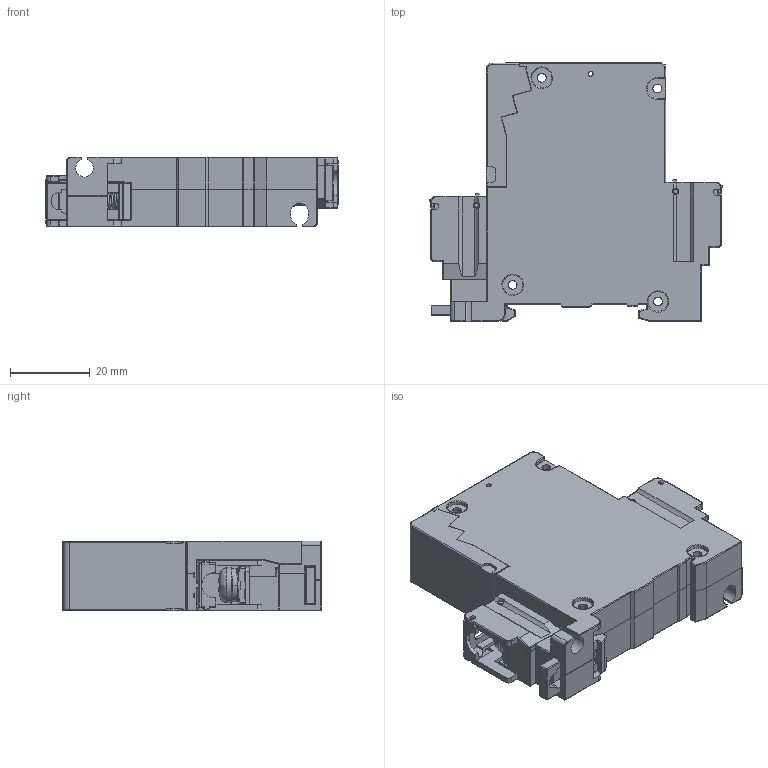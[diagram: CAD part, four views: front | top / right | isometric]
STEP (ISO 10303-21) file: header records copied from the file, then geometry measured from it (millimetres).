
FILE_DESCRIPTION (( 'STEP AP203' ), '1' );
FILE_NAME ('Total Ass''y(1P).STEP', '2018-06-27T00:26:19', ( '' ), ( '' ), 'SwSTEP 2.0', 'SolidWorks 2015', '' );
FILE_SCHEMA (( 'CONFIG_CONTROL_DESIGN' ));
Length unit declared in the file: millimetre
Products named in the file (19): Terminal Cover(1P)(CP30DN 6010); Self Up Screw(M5)(CP30DN 7305); Line Terminal Ass''''y(CP30DN4001); Din Rail Ass''''y(CP30DN 4005); Aux Handle(1P)(CP30DN6007); PH Swrew(M5X10); Base(CP30DN6001); Total Ass''y(1P); Wave Washer(M5); Dust Cover(CP30DN6014); Fixed Contact Tip(CP30DN7202)_晦獄 撲薑; Load Terminal(CP30DN5005); Cover(CP30DN6002); Line Terminal(CP30DN5004); 餌陝 Washer(M5); Din Rail Spring(CP30DN8001); Handle(CP30DN6004); Din Rail(CP30DN6006); Square Nut(M5)(CP30DN 7302)
Assembly tree (21 placements, depth 3):
  Total Ass''y(1P)
    Base(CP30DN6001)
    Cover(CP30DN6002)
    Square Nut(M5)(CP30DN 7302)  x2
    Handle(CP30DN6004)
    Line Terminal Ass''''y(CP30DN4001)
      Line Terminal(CP30DN5004)
      Fixed Contact Tip(CP30DN7202)_晦獄 撲薑
    Load Terminal(CP30DN5005)
    Self Up Screw(M5)(CP30DN 7305)  x2
      PH Swrew(M5X10)
      餌陝 Washer(M5)
      Wave Washer(M5)
    Aux Handle(1P)(CP30DN6007)
    Dust Cover(CP30DN6014)
    Terminal Cover(1P)(CP30DN 6010)  x2
    Din Rail Ass''''y(CP30DN 4005)
      Din Rail(CP30DN6006)
      Din Rail Spring(CP30DN8001)
Bounding box: 73.4 x 65.05 x 17.5 mm (x, y, z)
Volume: 21862.8 mm3; surface area: 34850.4 mm2
Topology: 20 solids, 20 shells, 2378 faces, 6465 edges, 4086 vertices
Faces by surface type: plane 1433, cylinder 682, bspline 217, cone 46
Entity records: 77678 total; most frequent: CARTESIAN_POINT 22088, ORIENTED_EDGE 11680, DIRECTION 10569, EDGE_CURVE 5840, LINE 4181, VECTOR 4181, VERTEX_POINT 3716, AXIS2_PLACEMENT_3D 3194
